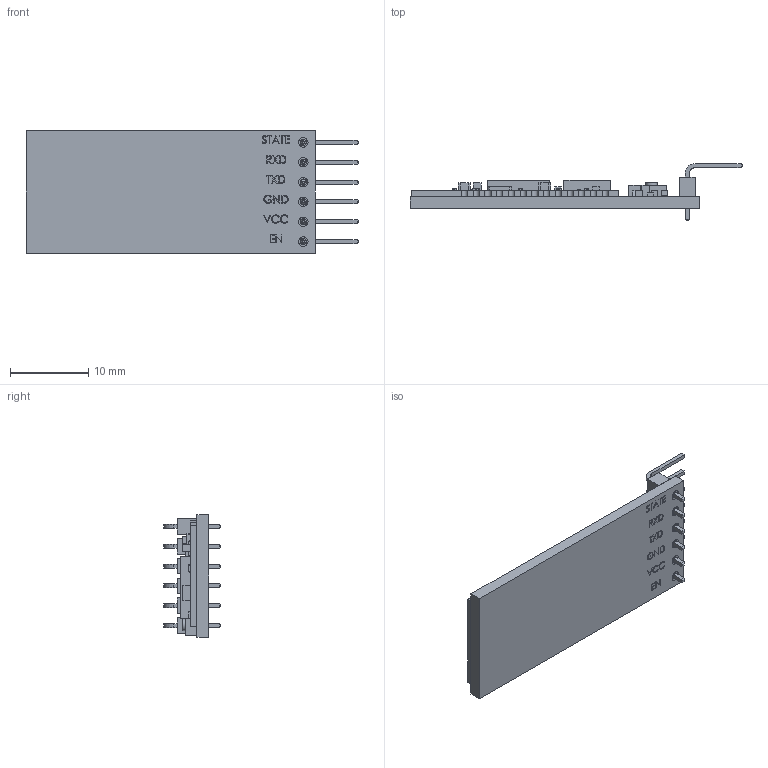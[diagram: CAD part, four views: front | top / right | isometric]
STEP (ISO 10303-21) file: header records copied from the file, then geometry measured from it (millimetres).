
FILE_DESCRIPTION(/* description */ (''),/* implementation_level */ '2;1');
FILE_NAME(/* name */ 'HC05_pin.stp',/* time_stamp */ '2025-10-24T16:27:04+07:00',/* author */ ('quang'),/* organization */ (''),/* preprocessor_version */ 'ST-DEVELOPER v20',/* originating_system */ 'Autodesk Inventor 2024',/* authorisation */ '');
FILE_SCHEMA (('AUTOMOTIVE_DESIGN { 1 0 10303 214 3 1 1 }'));
Products named in the file (1): HC05
Bounding box: 42.5 x 7.25 x 15.7 mm (x, y, z)
Volume: 1401.8 mm3; surface area: 1860.1 mm2
Topology: 1 solids, 1 shells, 2222 faces, 5882 edges, 3860 vertices
Faces by surface type: plane 1900, bspline 259, cylinder 63
Full cylindrical faces by diameter (mm): 0.8 x6, 1.2 x6, 1.5 x1
Entity records: 84373 total; most frequent: CARTESIAN_POINT 28592, ORIENTED_EDGE 11764, DIRECTION 9418, EDGE_CURVE 5882, LINE 5238, VECTOR 5238, VERTEX_POINT 3860, EDGE_LOOP 2430
